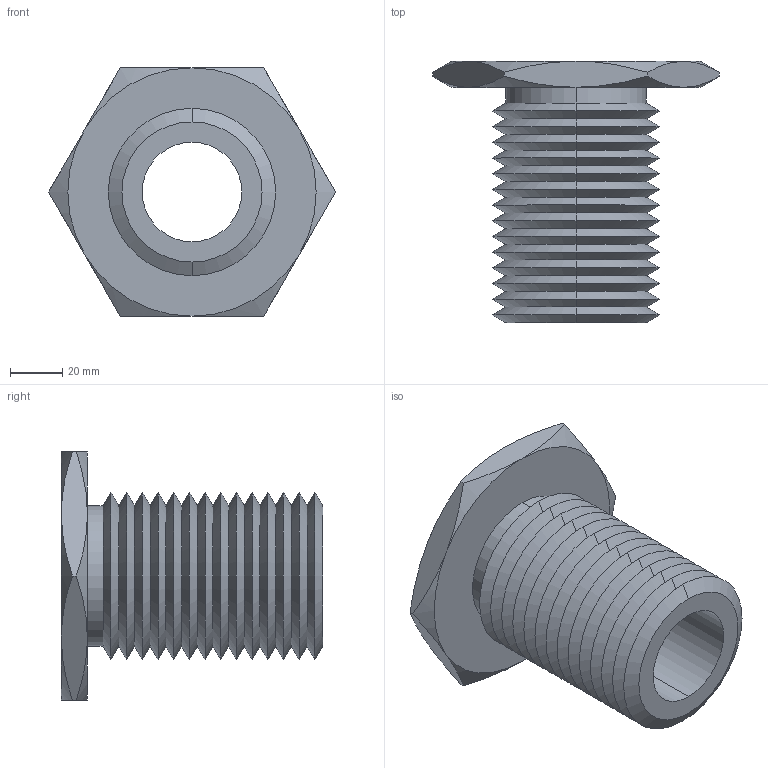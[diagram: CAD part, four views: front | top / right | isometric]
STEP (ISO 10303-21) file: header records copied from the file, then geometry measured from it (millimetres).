
FILE_DESCRIPTION (( 'STEP AP203' ), '1' );
FILE_NAME ('63302.W0064_1,50 UNC-6.step', '2013-12-08T11:28:46', ( 'User' ), ( '' ), 'SwSTEP 2.0', 'SolidWorks 2009', '' );
FILE_SCHEMA (( 'CONFIG_CONTROL_DESIGN' ));
Length unit declared in the file: millimetre
Products named in the file (1): 63302.W0064_1,50 UNC-6
Bounding box: 109.7 x 100 x 95 mm (x, y, z)
Volume: 203401.7 mm3; surface area: 59652.2 mm2
Topology: 1 solids, 1 shells, 83 faces, 170 edges, 90 vertices
Faces by surface type: cone 70, plane 9, cylinder 4
Entity records: 2371 total; most frequent: CARTESIAN_POINT 560, DIRECTION 392, ORIENTED_EDGE 340, EDGE_CURVE 170, AXIS2_PLACEMENT_3D 162, VERTEX_POINT 90, EDGE_LOOP 86, ADVANCED_FACE 83
